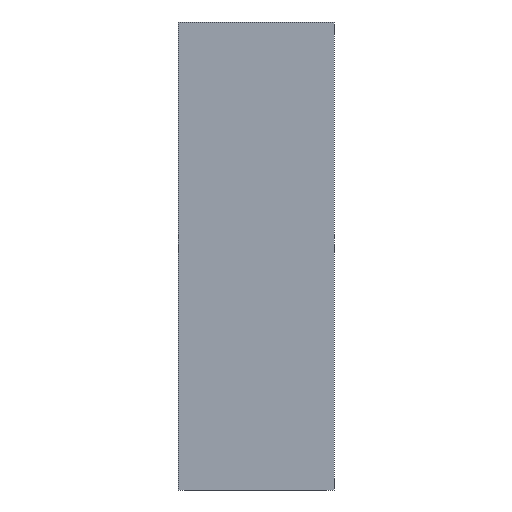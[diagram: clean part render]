
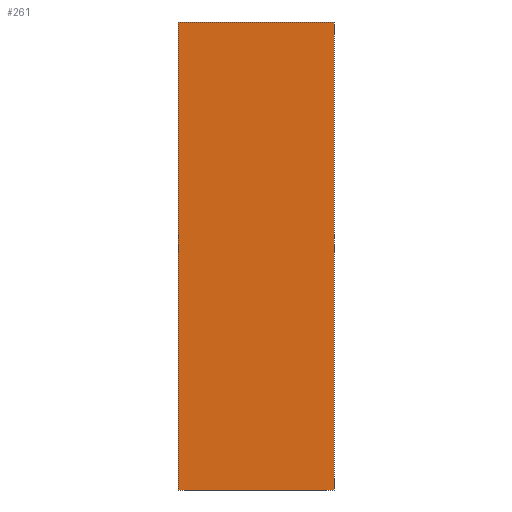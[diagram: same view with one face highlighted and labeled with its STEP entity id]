
A CAD part, front view. The second image highlights one B-rep face of the part: STEP entity #261.
In plain terms, the highlighted planar face has unit normal (0, -1, 0).
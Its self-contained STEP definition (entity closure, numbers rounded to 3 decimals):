
#21 = EDGE_CURVE('',#22,#24,#26,.T.);
#22 = VERTEX_POINT('',#23);
#23 = CARTESIAN_POINT('',(-32.,35.,86.));
#24 = VERTEX_POINT('',#25);
#25 = CARTESIAN_POINT('',(-32.,35.,278.));
#26 = SURFACE_CURVE('',#27,(#31,#43),.PCURVE_S1.);
#27 = LINE('',#28,#29);
#28 = CARTESIAN_POINT('',(-32.,35.,86.));
#29 = VECTOR('',#30,1.);
#30 = DIRECTION('',(0.,0.,1.));
#31 = PCURVE('',#32,#37);
#32 = PLANE('',#33);
#33 = AXIS2_PLACEMENT_3D('',#34,#35,#36);
#34 = CARTESIAN_POINT('',(-32.,35.,86.));
#35 = DIRECTION('',(1.,0.,0.));
#36 = DIRECTION('',(0.,0.,1.));
#37 = DEFINITIONAL_REPRESENTATION('',(#38),#42);
#38 = LINE('',#39,#40);
#39 = CARTESIAN_POINT('',(0.,0.));
#40 = VECTOR('',#41,1.);
#41 = DIRECTION('',(1.,0.));
#42 = ( GEOMETRIC_REPRESENTATION_CONTEXT(2) 
PARAMETRIC_REPRESENTATION_CONTEXT() REPRESENTATION_CONTEXT('2D SPACE',''
  ) );
#43 = PCURVE('',#44,#49);
#44 = PLANE('',#45);
#45 = AXIS2_PLACEMENT_3D('',#46,#47,#48);
#46 = CARTESIAN_POINT('',(-32.,35.,86.));
#47 = DIRECTION('',(0.,1.,0.));
#48 = DIRECTION('',(0.,0.,1.));
#49 = DEFINITIONAL_REPRESENTATION('',(#50),#54);
#50 = LINE('',#51,#52);
#51 = CARTESIAN_POINT('',(0.,0.));
#52 = VECTOR('',#53,1.);
#53 = DIRECTION('',(1.,0.));
#54 = ( GEOMETRIC_REPRESENTATION_CONTEXT(2) 
PARAMETRIC_REPRESENTATION_CONTEXT() REPRESENTATION_CONTEXT('2D SPACE',''
  ) );
#72 = PLANE('',#73);
#73 = AXIS2_PLACEMENT_3D('',#74,#75,#76);
#74 = CARTESIAN_POINT('',(-32.,35.,86.));
#75 = DIRECTION('',(0.,0.,1.));
#76 = DIRECTION('',(1.,0.,0.));
#126 = PLANE('',#127);
#127 = AXIS2_PLACEMENT_3D('',#128,#129,#130);
#128 = CARTESIAN_POINT('',(-32.,35.,278.));
#129 = DIRECTION('',(0.,0.,1.));
#130 = DIRECTION('',(1.,0.,0.));
#261 = ADVANCED_FACE('',(#262),#44,.F.);
#262 = FACE_BOUND('',#263,.F.);
#263 = EDGE_LOOP('',(#264,#287,#288,#311));
#264 = ORIENTED_EDGE('',*,*,#265,.F.);
#265 = EDGE_CURVE('',#22,#266,#268,.T.);
#266 = VERTEX_POINT('',#267);
#267 = CARTESIAN_POINT('',(32.,35.,86.));
#268 = SURFACE_CURVE('',#269,(#273,#280),.PCURVE_S1.);
#269 = LINE('',#270,#271);
#270 = CARTESIAN_POINT('',(-32.,35.,86.));
#271 = VECTOR('',#272,1.);
#272 = DIRECTION('',(1.,0.,0.));
#273 = PCURVE('',#44,#274);
#274 = DEFINITIONAL_REPRESENTATION('',(#275),#279);
#275 = LINE('',#276,#277);
#276 = CARTESIAN_POINT('',(0.,0.));
#277 = VECTOR('',#278,1.);
#278 = DIRECTION('',(0.,1.));
#279 = ( GEOMETRIC_REPRESENTATION_CONTEXT(2) 
PARAMETRIC_REPRESENTATION_CONTEXT() REPRESENTATION_CONTEXT('2D SPACE',''
  ) );
#280 = PCURVE('',#72,#281);
#281 = DEFINITIONAL_REPRESENTATION('',(#282),#286);
#282 = LINE('',#283,#284);
#283 = CARTESIAN_POINT('',(0.,0.));
#284 = VECTOR('',#285,1.);
#285 = DIRECTION('',(1.,0.));
#286 = ( GEOMETRIC_REPRESENTATION_CONTEXT(2) 
PARAMETRIC_REPRESENTATION_CONTEXT() REPRESENTATION_CONTEXT('2D SPACE',''
  ) );
#287 = ORIENTED_EDGE('',*,*,#21,.T.);
#288 = ORIENTED_EDGE('',*,*,#289,.T.);
#289 = EDGE_CURVE('',#24,#290,#292,.T.);
#290 = VERTEX_POINT('',#291);
#291 = CARTESIAN_POINT('',(32.,35.,278.));
#292 = SURFACE_CURVE('',#293,(#297,#304),.PCURVE_S1.);
#293 = LINE('',#294,#295);
#294 = CARTESIAN_POINT('',(-32.,35.,278.));
#295 = VECTOR('',#296,1.);
#296 = DIRECTION('',(1.,0.,0.));
#297 = PCURVE('',#44,#298);
#298 = DEFINITIONAL_REPRESENTATION('',(#299),#303);
#299 = LINE('',#300,#301);
#300 = CARTESIAN_POINT('',(192.,0.));
#301 = VECTOR('',#302,1.);
#302 = DIRECTION('',(0.,1.));
#303 = ( GEOMETRIC_REPRESENTATION_CONTEXT(2) 
PARAMETRIC_REPRESENTATION_CONTEXT() REPRESENTATION_CONTEXT('2D SPACE',''
  ) );
#304 = PCURVE('',#126,#305);
#305 = DEFINITIONAL_REPRESENTATION('',(#306),#310);
#306 = LINE('',#307,#308);
#307 = CARTESIAN_POINT('',(0.,0.));
#308 = VECTOR('',#309,1.);
#309 = DIRECTION('',(1.,0.));
#310 = ( GEOMETRIC_REPRESENTATION_CONTEXT(2) 
PARAMETRIC_REPRESENTATION_CONTEXT() REPRESENTATION_CONTEXT('2D SPACE',''
  ) );
#311 = ORIENTED_EDGE('',*,*,#312,.F.);
#312 = EDGE_CURVE('',#266,#290,#313,.T.);
#313 = SURFACE_CURVE('',#314,(#318,#325),.PCURVE_S1.);
#314 = LINE('',#315,#316);
#315 = CARTESIAN_POINT('',(32.,35.,86.));
#316 = VECTOR('',#317,1.);
#317 = DIRECTION('',(0.,0.,1.));
#318 = PCURVE('',#44,#319);
#319 = DEFINITIONAL_REPRESENTATION('',(#320),#324);
#320 = LINE('',#321,#322);
#321 = CARTESIAN_POINT('',(0.,64.));
#322 = VECTOR('',#323,1.);
#323 = DIRECTION('',(1.,0.));
#324 = ( GEOMETRIC_REPRESENTATION_CONTEXT(2) 
PARAMETRIC_REPRESENTATION_CONTEXT() REPRESENTATION_CONTEXT('2D SPACE',''
  ) );
#325 = PCURVE('',#326,#331);
#326 = PLANE('',#327);
#327 = AXIS2_PLACEMENT_3D('',#328,#329,#330);
#328 = CARTESIAN_POINT('',(32.,35.,86.));
#329 = DIRECTION('',(1.,0.,0.));
#330 = DIRECTION('',(0.,0.,1.));
#331 = DEFINITIONAL_REPRESENTATION('',(#332),#336);
#332 = LINE('',#333,#334);
#333 = CARTESIAN_POINT('',(0.,0.));
#334 = VECTOR('',#335,1.);
#335 = DIRECTION('',(1.,0.));
#336 = ( GEOMETRIC_REPRESENTATION_CONTEXT(2) 
PARAMETRIC_REPRESENTATION_CONTEXT() REPRESENTATION_CONTEXT('2D SPACE',''
  ) );
